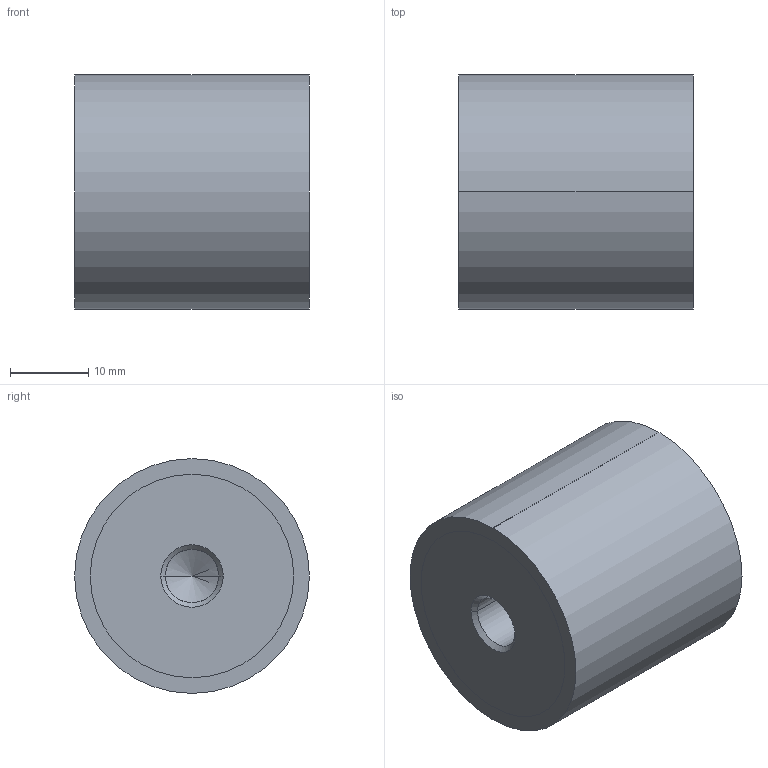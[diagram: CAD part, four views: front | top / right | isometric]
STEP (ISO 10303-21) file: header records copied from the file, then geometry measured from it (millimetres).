
FILE_DESCRIPTION (( 'STEP AP214' ), '1' );
FILE_NAME ('351-30-30-M8-EE-40.step', '2025-07-23T09:55:54', ( '' ), ( '' ), 'SwSTEP 2.0', 'SolidWorks 2022', '' );
FILE_SCHEMA (( 'AUTOMOTIVE_DESIGN' ));
Length unit declared in the file: millimetre
Products named in the file (1): 351-30-30-M8-EE-40
Bounding box: 30 x 30 x 30 mm (x, y, z)
Volume: 20488.7 mm3; surface area: 4623.4 mm2
Topology: 1 solids, 1 shells, 28 faces, 58 edges, 34 vertices
Faces by surface type: cylinder 14, cone 8, plane 6
Entity records: 844 total; most frequent: DIRECTION 144, CARTESIAN_POINT 117, ORIENTED_EDGE 108, AXIS2_PLACEMENT_3D 61, EDGE_CURVE 54, VERTEX_POINT 34, EDGE_LOOP 34, CIRCLE 32
